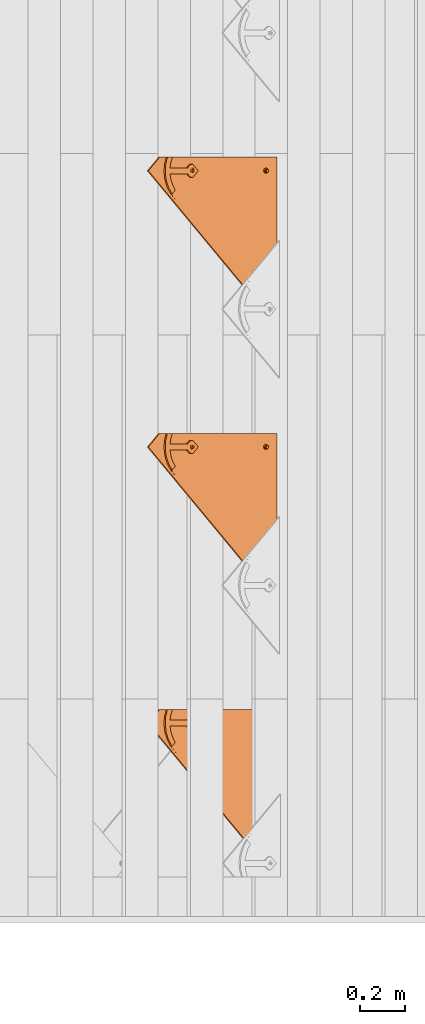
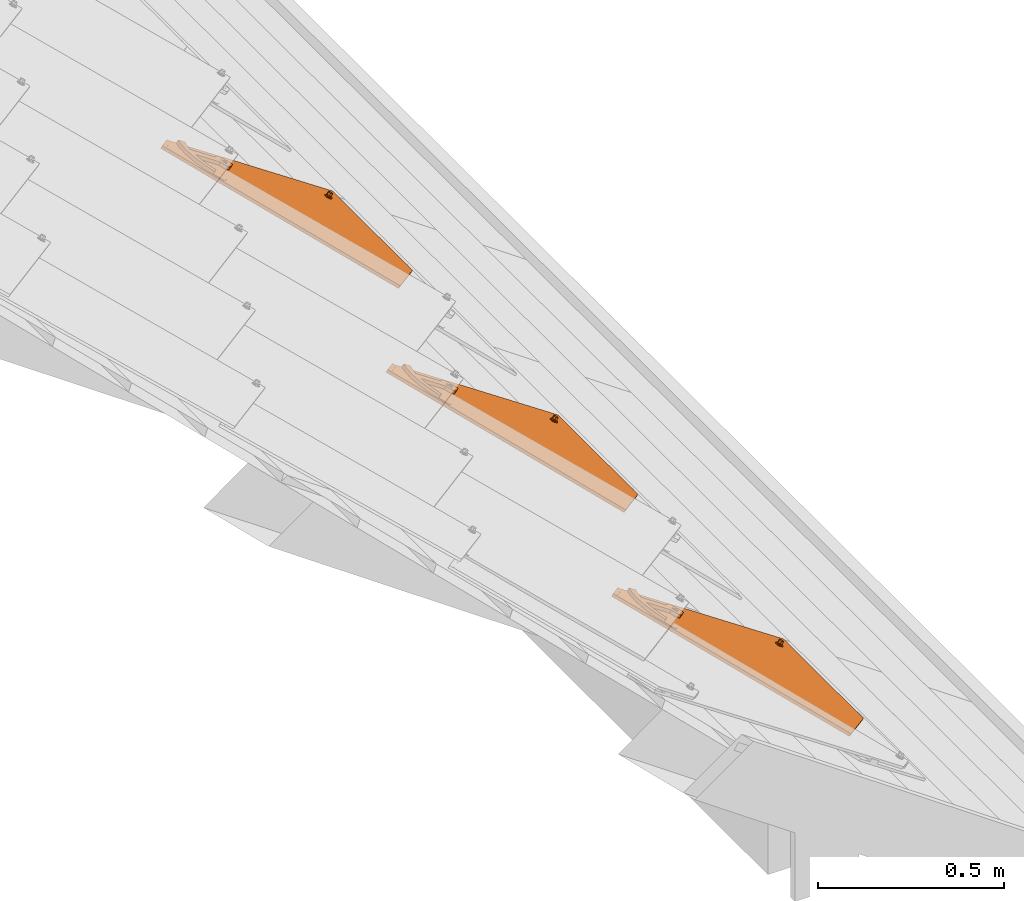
# One storey, part 113 of 133: 3 proxies.
"""IFC2X3 building model written with IfcOpenShell, lengths in millimetres."""

from ifc_helpers import new_model, entity, si_unit, converted_unit, derived_unit, direction, frame, origin, place, context, subcontext, project, spatial, faceted_brep, source, transform, mapped, material, material_list, type_object, type_shapes, element, save


model = new_model("IFC2X3")

# Units and contexts
model_context = context("Model", 3, precision=0.01, world=origin(), true_north=direction((6.12303176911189e-17, 1.0)))
body_context = subcontext(model_context, "Body", "Model", "MODEL_VIEW")
ifc_project = project(units=[si_unit("LENGTHUNIT", "METRE", prefix="MILLI"), si_unit("AREAUNIT", "SQUARE_METRE"), si_unit("VOLUMEUNIT", "CUBIC_METRE"), converted_unit("PLANEANGLEUNIT", "DEGREE", entity("IfcRatioMeasure", 0.0174532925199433), si_unit("PLANEANGLEUNIT", "RADIAN"), dimensions=[0, 0, 0, 0, 0, 0, 0]), si_unit("MASSUNIT", "GRAM", prefix="KILO"), derived_unit("MASSDENSITYUNIT", [(si_unit("MASSUNIT", "GRAM", prefix="KILO"), 1), (si_unit("LENGTHUNIT", "METRE"), -3)]), si_unit("TIMEUNIT", "SECOND"), si_unit("FREQUENCYUNIT", "HERTZ"), si_unit("THERMODYNAMICTEMPERATUREUNIT", "DEGREE_CELSIUS"), derived_unit("THERMALTRANSMITTANCEUNIT", [(si_unit("MASSUNIT", "GRAM", prefix="KILO"), 1), (si_unit("THERMODYNAMICTEMPERATUREUNIT", "KELVIN"), -1), (si_unit("TIMEUNIT", "SECOND"), -3)]), derived_unit("VOLUMETRICFLOWRATEUNIT", [(si_unit("LENGTHUNIT", "METRE"), 3), (si_unit("TIMEUNIT", "SECOND"), -1)]), si_unit("ELECTRICCURRENTUNIT", "AMPERE"), si_unit("ELECTRICVOLTAGEUNIT", "VOLT"), si_unit("POWERUNIT", "WATT"), si_unit("FORCEUNIT", "NEWTON", prefix="KILO"), si_unit("ILLUMINANCEUNIT", "LUX"), si_unit("LUMINOUSFLUXUNIT", "LUMEN"), si_unit("LUMINOUSINTENSITYUNIT", "CANDELA"), derived_unit("USERDEFINED", [(si_unit("MASSUNIT", "GRAM", prefix="KILO"), -1), (si_unit("LENGTHUNIT", "METRE"), -2), (si_unit("TIMEUNIT", "SECOND"), 3), (si_unit("LUMINOUSFLUXUNIT", "LUMEN"), 1)]), derived_unit("LINEARVELOCITYUNIT", [(si_unit("LENGTHUNIT", "METRE"), 1), (si_unit("TIMEUNIT", "SECOND"), -1)]), si_unit("PRESSUREUNIT", "PASCAL"), derived_unit("USERDEFINED", [(si_unit("LENGTHUNIT", "METRE"), -2), (si_unit("MASSUNIT", "GRAM", prefix="KILO"), 1), (si_unit("TIMEUNIT", "SECOND"), -2)])], contexts=[model_context])

# Site, building, storey
site_placement = place(None, origin())
site = spatial("IfcSite", under=ifc_project, at=site_placement, Name="Default", CompositionType="ELEMENT")
building_placement = place(site_placement, origin())
building = spatial("IfcBuilding", under=site, at=building_placement, CompositionType="ELEMENT")
storey_placement = place(building_placement, origin())
storey = spatial("IfcBuildingStorey", under=building, at=storey_placement, Name="Level 1", CompositionType="ELEMENT", Elevation=0.0)

# Proxies
ifc_material_1 = material(Name="Rubber - Sunstyle - Black")
ifc_material_2 = material(Name="Glass - Sunstyle - Tainted Black")
ifc_material_list_1 = material_list([ifc_material_1, ifc_material_2])
ifc_material_list_2 = material_list([ifc_material_1, ifc_material_2])
building_element_proxy_type = type_object("IfcBuildingElementProxyType", Name="Corner Bottom Big Right - Black", PredefinedType="NOTDEFINED", material=ifc_material_list_2)
shared_shape = source(origin(), body_context, "Body", "Brep", [
    faceted_brep([(0.270009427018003, -2.025866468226, -4.01619789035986), (-5.50419340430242, -5.35913660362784, -3.96037390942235), (-5.50419340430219, -4.99082751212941, 18.0314954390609), (0.270009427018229, -1.65755737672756, 17.9756714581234), (-5.50419340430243, -12.0256768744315, -3.84872594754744), (-5.5041934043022, -11.6573677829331, 18.1431434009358), (0.270009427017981, -15.3589470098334, -3.79290196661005), (0.270009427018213, -14.990637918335, 18.1989673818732), (6.04421225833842, -12.0256768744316, -3.84872594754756), (6.04421225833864, -11.6573677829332, 18.1431434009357), (6.04421225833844, -5.35913660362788, -3.96037390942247), (6.04421225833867, -4.99082751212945, 18.0314954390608), (-8.3336947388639, -16.9265954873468, 18.2313898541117), (0.27000942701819, -20.4898667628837, 18.2910657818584), (-11.8974656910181, -8.32409764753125, 18.0873194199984), (-8.33369473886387, 0.278400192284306, 17.9432489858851), (0.270009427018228, 3.84167146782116, 17.8835730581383), (8.87371359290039, 0.278400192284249, 17.9432489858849), (12.4374845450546, -8.32409764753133, 18.0873194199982), (8.87371359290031, -16.9265954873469, 18.2313898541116), (-11.1602134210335, -6.95050198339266, 20.4858706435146), (-9.50050407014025, -8.25322861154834, 22.3189355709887), (0.270009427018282, -0.940007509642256, 22.9603444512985), (0.27000942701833, 0.300490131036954, 22.3799978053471), (0.270009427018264, 2.4580409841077, 21.3706227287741), (-6.05323627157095, -4.59022324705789, 23.0214764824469), (-6.05323627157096, -11.8906547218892, 23.1437405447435), (0.270009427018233, -18.990246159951, 21.7298281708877), (0.270009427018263, -15.5408704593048, 23.2048725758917), (11.2551842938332, -12.0411541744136, 20.3827540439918), (10.3938597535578, -8.25726753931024, 22.077768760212), (6.59325512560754, -4.59022324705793, 23.0214764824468), (6.5932551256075, -11.8906547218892, 23.1437405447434), (-6.05323627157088, -11.7566262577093, 31.1466287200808), (0.270009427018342, -15.4068419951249, 31.207760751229), (0.270009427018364, -8.10641052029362, 31.0854966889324), (-6.05323627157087, -4.456194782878, 31.0243646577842), (6.59325512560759, -11.7566262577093, 31.1466287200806), (6.59325512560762, -4.45619478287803, 31.024364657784), (0.270009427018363, -0.805979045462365, 30.9632326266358), (0.270009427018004, -8.69240673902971, -3.90454992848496)], [[[0, 1, 2, 3]], [[1, 4, 5, 2]], [[4, 6, 7, 5]], [[6, 8, 9, 7]], [[8, 10, 11, 9]], [[10, 0, 3, 11]], [[12, 7, 13]], [[7, 12, 5]], [[14, 5, 12]], [[5, 14, 2]], [[15, 2, 14]], [[3, 2, 15]], [[15, 16, 3]], [[16, 17, 3]], [[11, 3, 17]], [[11, 17, 18]], [[9, 11, 18]], [[18, 19, 9]], [[7, 9, 19]], [[19, 13, 7]], [[15, 20, 16]], [[21, 22, 23, 24]], [[22, 21, 25]], [[20, 14, 12]], [[15, 14, 20]], [[25, 21, 26]], [[20, 24, 16]], [[12, 13, 27]], [[12, 27, 20]], [[21, 28, 26]], [[21, 27, 28]], [[20, 21, 24]], [[20, 27, 21]], [[19, 29, 13]], [[30, 23, 31]], [[30, 28, 27]], [[24, 23, 30]], [[29, 27, 13]], [[19, 18, 29]], [[29, 30, 27]], [[29, 17, 24]], [[24, 17, 16]], [[31, 32, 30]], [[23, 22, 31]], [[28, 30, 32]], [[29, 24, 30]], [[29, 18, 17]], [[33, 34, 35]], [[35, 36, 33]], [[34, 37, 35]], [[38, 35, 37]], [[35, 38, 39]], [[35, 39, 36]], [[40, 6, 4]], [[4, 1, 40]], [[1, 0, 40]], [[40, 8, 6]], [[0, 10, 40]], [[8, 40, 10]], [[22, 25, 36, 39]], [[25, 26, 33, 36]], [[26, 28, 34, 33]], [[28, 32, 37, 34]], [[32, 31, 38, 37]], [[31, 22, 39, 38]]]),
    faceted_brep([(-518.247351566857, 79.9143812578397, 14.9652572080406), (-518.247351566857, 79.9394990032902, 16.4650468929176), (-526.732038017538, 88.4241854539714, 16.3229495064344), (-526.732038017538, 88.399067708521, 14.8231598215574), (-0.00032251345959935, 614.98308737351, 6.00418773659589), (60.1037538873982, 554.895864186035, 7.01049921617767), (51.6190674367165, 546.411177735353, 7.15259660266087), (-0.000322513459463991, 598.016093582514, 6.28834266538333), (-0.000322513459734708, 615.00820511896, 7.50397742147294), (-0.000322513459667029, 598.041211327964, 7.78813235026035), (51.6190674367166, 546.436295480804, 8.65238628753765), (60.1037538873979, 554.920981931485, 8.51028890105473)], [[[0, 1, 2, 3]], [[0, 3, 4, 5, 6, 7]], [[3, 2, 8, 4]], [[2, 1, 9, 10, 11, 8]], [[1, 0, 7, 9]], [[6, 5, 11, 10]], [[4, 8, 11, 5]], [[9, 7, 6, 10]]]),
    faceted_brep([(0.0, 372.774440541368, 20.3195200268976), (0.0, 377.273809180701, 20.2441667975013), (-8.60370416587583, 376.337711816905, 20.2598440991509), (8.60370416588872, 376.337711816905, 20.2598440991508), (6.64022859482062, 381.107009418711, 20.1799702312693), (12.1674751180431, 384.940209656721, 20.1157736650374), (6.64022859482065, 388.773409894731, 20.0515770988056), (8.6037041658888, 393.542707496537, 19.9717032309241), (0.0, 392.606610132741, 19.9873805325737), (0.0, 397.105978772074, 19.9120273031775), (-8.60370416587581, 393.542707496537, 19.9717032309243), (-6.64022859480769, 388.773409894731, 20.0515770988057), (-12.1674751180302, 384.940209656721, 20.1157736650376), (-6.6402285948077, 381.107009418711, 20.1799702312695), (-6.6402282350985, 388.505487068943, 4.05382046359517), (0.0, 392.338687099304, 3.98962390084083), (-6.64022823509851, 380.839087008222, 4.18221358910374), (0.0, 377.005886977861, 4.24641015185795), (6.64022823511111, 380.839087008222, 4.1822135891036), (6.64022823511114, 388.505487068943, 4.05382046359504), (-8.603704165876, 376.069789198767, 4.26208746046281), (0.0, 372.50651792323, 4.32176338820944), (-12.1674751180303, 384.672287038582, 4.11801702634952), (-8.60370416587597, 393.274784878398, 3.97394659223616), (0.0, 396.838056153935, 3.91427066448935), (8.60370416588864, 393.274784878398, 3.97394659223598), (12.1674751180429, 384.672287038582, 4.11801702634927), (8.60370416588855, 376.069789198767, 4.26208746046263)], [[[0, 1, 2]], [[1, 0, 3]], [[3, 4, 1]], [[4, 3, 5]], [[6, 4, 5]], [[5, 7, 6]], [[7, 8, 6]], [[8, 7, 9]], [[8, 9, 10]], [[10, 11, 8]], [[12, 11, 10]], [[2, 13, 12]], [[12, 13, 11]], [[13, 2, 1]], [[8, 11, 14, 15]], [[11, 13, 16, 14]], [[13, 1, 17, 16]], [[1, 4, 18, 17]], [[4, 6, 19, 18]], [[6, 8, 15, 19]], [[20, 17, 21]], [[17, 20, 16]], [[22, 16, 20]], [[14, 16, 22]], [[23, 14, 22]], [[15, 14, 23]], [[23, 24, 15]], [[24, 25, 15]], [[19, 15, 25]], [[19, 25, 26]], [[26, 18, 19]], [[26, 27, 18]], [[17, 18, 27]], [[27, 21, 17]], [[24, 23, 10, 9]], [[10, 23, 22, 12]], [[20, 21, 0, 2]], [[20, 2, 12, 22]], [[21, 27, 3, 0]], [[3, 27, 26, 5]], [[25, 24, 9, 7]], [[25, 7, 5, 26]]]),
    faceted_brep([(-10.3923048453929, 390.78484910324, 9.75895037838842), (-8.48528137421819, 393.269782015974, 9.7173339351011), (-0.00032251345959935, 614.983087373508, 6.0041877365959), (-11.5911099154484, 387.891083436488, 9.8074137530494), (-6.0, 395.176538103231, 9.68540051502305), (-3.10582854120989, 396.37517508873, 9.6653263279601), (60.1037538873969, 554.895864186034, 7.01049921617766), (0.0, 396.784007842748, 9.65847939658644), (3.1058285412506, 396.37517508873, 9.6653263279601), (6.0, 395.176538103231, 9.68540051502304), (8.48528137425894, 393.269782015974, 9.7173339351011), (10.3923048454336, 390.784849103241, 9.75895037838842), (11.5911099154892, 387.891083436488, 9.8074137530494), (12.0, 384.785690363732, 9.8594213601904), (11.5911099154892, 381.680297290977, 9.9114289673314), (60.103753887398, -67.933460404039, 17.4413406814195), (10.3923048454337, 378.786531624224, 9.95989234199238), (6.58173564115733, -3.94243384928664, 16.369650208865), (8.48528137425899, 376.301598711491, 10.0015087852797), (5.31038666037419, -2.28581190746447, 16.3419059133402), (6.0, 374.394842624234, 10.0334422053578), (3.65353241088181, -1.01464118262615, 16.3206169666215), (3.10582854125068, 373.196205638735, 10.0535163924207), (1.72408477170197, -0.215549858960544, 16.3072341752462), (0.0, 372.787372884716, 10.0603633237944), (-0.346467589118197, 0.0570053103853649, 16.3026695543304), (-2.41701994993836, -0.215549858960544, 16.3072341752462), (-3.10582854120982, 373.196205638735, 10.0535163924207), (-4.34646758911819, -1.01464118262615, 16.3206169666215), (-6.0, 374.394842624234, 10.0334422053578), (-6.00332183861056, -2.28581190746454, 16.3419059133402), (-8.48528137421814, 376.301598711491, 10.0015087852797), (-370.355661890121, -67.9334604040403, 17.4413406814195), (-10.3923048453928, 378.786531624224, 9.95989234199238), (-526.732038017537, 88.3990677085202, 14.8231598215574), (-11.5911099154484, 381.680297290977, 9.9114289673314), (-12.0, 384.785690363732, 9.8594213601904), (-7.27467081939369, -3.94243384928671, 16.369650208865), (-8.07387419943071, -5.87161096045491, 16.4019591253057), (-8.34646758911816, -7.94187300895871, 16.4366308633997), (-8.0738741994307, -10.0121350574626, 16.4713026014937), (-7.27467081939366, -11.9413121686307, 16.5036115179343), (-6.00332183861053, -13.5979341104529, 16.5313558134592), (-4.34646758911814, -14.8691048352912, 16.5526447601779), (-2.41701994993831, -15.6681961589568, 16.5660275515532), (7.38093902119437, -5.87161096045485, 16.4019591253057), (7.65353241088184, -7.94187300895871, 16.4366308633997), (7.38093902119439, -10.0121350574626, 16.4713026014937), (6.58173564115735, -11.9413121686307, 16.5036115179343), (5.31038666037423, -13.5979341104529, 16.5313558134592), (3.65353241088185, -14.8691048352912, 16.5526447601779), (1.72408477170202, -15.6681961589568, 16.5660275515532), (-0.346467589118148, -15.9407513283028, 16.570592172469), (-370.355661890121, -68.0590491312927, 9.94239225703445), (-8.0738741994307, -10.1377237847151, 8.97235417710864), (-7.27467081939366, -12.0669008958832, 9.00466309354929), (-8.34646758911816, -8.06746173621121, 8.93768243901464), (-6.00332183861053, -13.7235228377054, 9.03240738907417), (-4.34646758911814, -14.9946935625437, 9.05369633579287), (60.103753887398, -68.0590491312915, 9.94239225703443), (-8.07387419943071, -5.99719968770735, 8.90301070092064), (-7.27467081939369, -4.06802257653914, 8.87070178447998), (-6.00332183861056, -2.41140063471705, 8.8429574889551), (-8.48528137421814, 376.176009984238, 2.50256036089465), (-10.3923048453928, 378.660942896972, 2.46094391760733), (-526.732038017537, 88.2734789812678, 7.32421139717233), (-11.5911099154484, 381.554708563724, 2.41248054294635), (-12.0, 384.66010163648, 2.36047293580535), (-11.5911099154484, 387.765494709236, 2.30846532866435), (-0.00032251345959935, 614.857498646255, -1.49476068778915), (-10.3923048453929, 390.659260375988, 2.26000195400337), (-8.48528137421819, 393.144193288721, 2.21838551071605), (-6.0, 395.050949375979, 2.18645209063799), (-3.10582854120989, 396.249586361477, 2.16637790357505), (60.1037538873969, 554.770275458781, -0.488449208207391), (0.0, 396.658419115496, 2.15953097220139), (3.1058285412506, 396.249586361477, 2.16637790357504), (6.0, 395.050949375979, 2.18645209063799), (8.48528137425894, 393.144193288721, 2.21838551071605), (10.3923048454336, 390.659260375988, 2.26000195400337), (11.5911099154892, 387.765494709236, 2.30846532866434), (12.0, 384.66010163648, 2.36047293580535), (11.5911099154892, 381.554708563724, 2.41248054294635), (-2.41701994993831, -15.7937848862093, 9.06707912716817), (-0.346467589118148, -16.0663400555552, 9.07164374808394), (1.72408477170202, -15.7937848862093, 9.06707912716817), (3.65353241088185, -14.9946935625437, 9.05369633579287), (5.31038666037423, -13.7235228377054, 9.03240738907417), (6.58173564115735, -12.0669008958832, 9.00466309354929), (7.38093902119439, -10.1377237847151, 8.97235417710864), (7.65353241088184, -8.06746173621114, 8.93768243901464), (7.38093902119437, -5.99719968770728, 8.90301070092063), (6.58173564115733, -4.06802257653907, 8.87070178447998), (10.3923048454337, 378.660942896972, 2.46094391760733), (-6.0, 374.269253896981, 2.5344937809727), (-4.34646758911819, -1.14022990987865, 8.8216685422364), (-3.10582854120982, 373.070616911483, 2.55456796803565), (-2.41701994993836, -0.341138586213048, 8.8082857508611), (0.0, 372.661784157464, 2.56141489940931), (-0.346467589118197, -0.0685834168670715, 8.80372112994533), (1.72408477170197, -0.341138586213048, 8.8082857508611), (3.10582854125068, 373.070616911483, 2.55456796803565), (3.65353241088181, -1.14022990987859, 8.8216685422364), (6.0, 374.269253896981, 2.5344937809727), (5.31038666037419, -2.41140063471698, 8.8429574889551), (8.48528137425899, 376.176009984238, 2.50256036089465)], [[[0, 1, 2]], [[3, 0, 2]], [[4, 2, 1]], [[2, 4, 5]], [[6, 2, 5]], [[7, 6, 5]], [[7, 8, 6]], [[8, 9, 6]], [[10, 6, 9]], [[6, 10, 11]], [[6, 11, 12]], [[12, 13, 6]], [[13, 14, 6]], [[6, 14, 15]], [[14, 16, 15]], [[17, 15, 16]], [[18, 17, 16]], [[17, 18, 19]], [[18, 20, 19]], [[21, 19, 20]], [[20, 22, 21]], [[23, 21, 22]], [[24, 23, 22]], [[23, 24, 25]], [[26, 25, 24]], [[24, 27, 26]], [[26, 27, 28]], [[29, 28, 27]], [[28, 29, 30]], [[29, 31, 30]], [[32, 30, 31]], [[33, 32, 31]], [[33, 34, 32]], [[33, 35, 34]], [[35, 36, 34]], [[36, 3, 34]], [[3, 2, 34]], [[30, 32, 37]], [[37, 32, 38]], [[32, 39, 38]], [[39, 32, 40]], [[40, 32, 41]], [[42, 41, 32]], [[42, 32, 43]], [[43, 32, 15]], [[15, 44, 43]], [[17, 45, 15]], [[45, 46, 15]], [[47, 15, 46]], [[47, 48, 15]], [[49, 15, 48]], [[15, 49, 50]], [[50, 51, 15]], [[51, 52, 15]], [[52, 44, 15]], [[53, 54, 55]], [[54, 53, 56]], [[53, 55, 57]], [[57, 58, 53]], [[53, 58, 59]], [[60, 56, 53]], [[61, 60, 53]], [[61, 53, 62]], [[63, 62, 53]], [[64, 63, 53]], [[65, 64, 53]], [[65, 66, 64]], [[66, 65, 67]], [[67, 65, 68]], [[65, 69, 68]], [[70, 68, 69]], [[71, 70, 69]], [[72, 71, 69]], [[69, 73, 72]], [[74, 73, 69]], [[75, 73, 74]], [[76, 75, 74]], [[77, 76, 74]], [[74, 78, 77]], [[78, 74, 79]], [[80, 79, 74]], [[80, 74, 81]], [[82, 81, 74]], [[82, 74, 59]], [[59, 58, 83]], [[84, 59, 83]], [[84, 85, 59]], [[85, 86, 59]], [[87, 59, 86]], [[59, 87, 88]], [[59, 88, 89]], [[89, 90, 59]], [[90, 91, 59]], [[91, 92, 59]], [[92, 93, 59]], [[93, 82, 59]], [[94, 62, 63]], [[94, 95, 62]], [[96, 95, 94]], [[97, 95, 96]], [[96, 98, 97]], [[99, 97, 98]], [[99, 98, 100]], [[101, 100, 98]], [[102, 100, 101]], [[103, 102, 101]], [[104, 102, 103]], [[103, 105, 104]], [[105, 92, 104]], [[105, 93, 92]], [[36, 67, 68, 3]], [[3, 68, 70, 0]], [[4, 1, 71, 72]], [[70, 71, 1, 0]], [[5, 4, 72, 73]], [[75, 7, 5, 73]], [[8, 76, 77, 9]], [[9, 77, 78, 10]], [[12, 11, 79, 80]], [[78, 79, 11, 10]], [[13, 12, 80, 81]], [[8, 7, 75, 76]], [[13, 81, 82, 14]], [[14, 82, 93, 16]], [[20, 18, 105, 103]], [[93, 105, 18, 16]], [[22, 20, 103, 101]], [[98, 24, 22, 101]], [[27, 96, 94, 29]], [[29, 94, 63, 31]], [[35, 33, 64, 66]], [[63, 64, 33, 31]], [[36, 35, 66, 67]], [[27, 24, 98, 96]], [[34, 2, 69, 65]], [[32, 34, 65, 53]], [[15, 32, 53, 59]], [[6, 15, 59, 74]], [[2, 6, 74, 69]], [[39, 56, 60, 38]], [[38, 60, 61, 37]], [[28, 30, 62, 95]], [[62, 30, 37, 61]], [[26, 28, 95, 97]], [[26, 97, 99, 25]], [[25, 99, 100, 23]], [[23, 100, 102, 21]], [[17, 19, 104, 92]], [[104, 19, 21, 102]], [[45, 17, 92, 91]], [[45, 91, 90, 46]], [[46, 90, 89, 47]], [[47, 89, 88, 48]], [[50, 49, 87, 86]], [[87, 49, 48, 88]], [[51, 50, 86, 85]], [[51, 85, 84, 52]], [[52, 84, 83, 44]], [[44, 83, 58, 43]], [[41, 42, 57, 55]], [[57, 42, 43, 58]], [[40, 41, 55, 54]], [[40, 54, 56, 39]]]),
    faceted_brep([(-114.2509690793, 483.839345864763, 10.7008696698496), (-128.946713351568, 469.147722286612, 10.9469178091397), (-111.269043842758, 451.472531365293, 11.2429332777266), (-84.944396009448, 477.793488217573, 10.8021227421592), (-102.027571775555, 494.874268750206, 10.5160621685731), (-108.279973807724, 489.512620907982, 10.6058564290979), (0.0, 355.735286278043, 10.3459433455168), (0.0, 373.122276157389, 10.0547545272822), (3.10582854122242, 373.531108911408, 10.0479075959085), (-3.10582854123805, 373.531108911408, 10.0479075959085), (6.0, 374.729745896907, 10.0278334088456), (8.48528137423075, 376.636501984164, 9.99589998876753), (29.3894280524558, 385.120593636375, 9.85381256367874), (-6.0, 374.729745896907, 10.0278334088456), (-8.4852813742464, 376.636501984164, 9.99589998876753), (-29.3894280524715, 385.120593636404, 9.85381256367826), (-10.3923048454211, 379.121434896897, 9.95428354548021), (-11.5911099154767, 382.01520056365, 9.90582017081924), (-12.0, 385.120593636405, 9.85381256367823), (-28.6795527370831, 391.540108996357, 9.74630165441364), (-11.5911099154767, 388.225986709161, 9.80180495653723), (-26.5842195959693, 397.649509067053, 9.64398440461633), (-10.3923048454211, 391.119752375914, 9.75334158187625), (-23.204650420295, 403.153659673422, 9.55180357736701), (-8.48528137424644, 393.604685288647, 9.71172513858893), (-18.704106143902, 407.786665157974, 9.47421226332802), (-6.0, 395.511441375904, 9.67979171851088), (-13.3000000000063, 411.324713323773, 9.41495875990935), (-3.10582854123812, 396.710078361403, 9.65971753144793), (0.0, 397.118911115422, 9.65287060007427), (13.2999999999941, 411.324713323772, 9.41495875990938), (-13.3000000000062, 505.643535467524, 7.83535317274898), (13.2999999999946, 505.643535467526, 7.83535317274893), (-7.21723712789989, 530.953901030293, 7.41146752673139), (-41.1626974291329, 525.784666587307, 7.49803934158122), (-38.7697427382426, 500.828655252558, 7.91599043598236), (-73.2491712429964, 513.560140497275, 7.70276973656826), (-62.9243331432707, 491.42502143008, 8.07347790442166), (-84.9431983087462, 477.752822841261, 8.30245321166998), (-102.027571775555, 494.832405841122, 8.01641269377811), (-108.279973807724, 489.470757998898, 8.10620695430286), (-114.2509690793, 483.79748295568, 8.20122019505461), (-111.269043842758, 451.430668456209, 8.74328380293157), (-128.946713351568, 469.105859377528, 8.44726833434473), (27.0541674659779, 528.834391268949, 7.44696404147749), (37.2599857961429, 501.252149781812, 7.90889795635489), (60.1037538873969, 519.521858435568, 7.60292579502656), (60.1037538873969, 492.795625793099, 8.05052369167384), (3.10582854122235, 396.710078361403, 9.65971753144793), (6.0, 395.511441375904, 9.67979171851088), (18.7041061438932, 407.786665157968, 9.47421226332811), (8.48528137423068, 393.604685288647, 9.71172513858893), (23.2046504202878, 403.153659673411, 9.55180357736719), (10.3923048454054, 391.119752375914, 9.75334158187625), (26.5842195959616, 397.649509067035, 9.64398440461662), (11.591109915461, 388.225986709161, 9.80180495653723), (28.6795527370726, 391.540108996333, 9.74630165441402), (12.0, 385.120593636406, 9.85381256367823), (11.591109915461, 382.01520056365, 9.90582017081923), (10.3923048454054, 379.121434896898, 9.95428354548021), (-38.7697427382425, 500.996106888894, 17.9145883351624), (-41.1626974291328, 525.952118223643, 17.4966372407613), (-73.2491712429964, 513.727592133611, 17.7013676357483), (-62.9243331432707, 491.592473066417, 18.0720758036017), (-13.3000000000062, 505.810987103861, 17.833951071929), (-7.21723712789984, 531.121352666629, 17.4100654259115), (13.2999999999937, 505.810987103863, 17.833951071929), (-13.3000000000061, 411.49216496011, 19.4135566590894), (13.2999999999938, 411.492164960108, 19.4135566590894), (0.0, 397.286362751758, 19.6514684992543), (-3.10582854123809, 396.877529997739, 19.658315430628), (-6.0, 395.678893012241, 19.6783896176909), (-18.7041061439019, 407.954116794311, 19.4728101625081), (-8.48528137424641, 393.772136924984, 19.710323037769), (-23.2046504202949, 403.321111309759, 19.5504014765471), (-10.3923048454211, 391.28720401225, 19.7519394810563), (-26.5842195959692, 397.816960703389, 19.6425823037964), (-11.5911099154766, 388.393438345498, 19.8004028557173), (-28.6795527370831, 391.707560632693, 19.7448995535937), (-12.0, 385.288045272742, 19.8524104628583), (-29.3894280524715, 385.28804527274, 19.8524104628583), (-11.5911099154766, 382.182652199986, 19.9044180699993), (-10.3923048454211, 379.288886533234, 19.9528814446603), (-8.48528137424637, 376.803953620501, 19.9944978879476), (0.0, 355.902737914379, 20.3445412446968), (-6.0, 374.897197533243, 20.0264313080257), (-3.10582854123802, 373.698560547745, 20.0465054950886), (0.0, 373.289727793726, 20.0533524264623), (3.10582854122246, 373.698560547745, 20.0465054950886), (6.0, 374.897197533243, 20.0264313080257), (8.48528137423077, 376.803953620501, 19.9944978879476), (29.3894280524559, 385.288045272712, 19.8524104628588), (10.3923048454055, 379.288886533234, 19.9528814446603), (11.591109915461, 382.182652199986, 19.9044180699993), (12.0, 385.288045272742, 19.8524104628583), (28.6795527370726, 391.70756063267, 19.7448995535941), (11.591109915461, 388.393438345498, 19.8004028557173), (26.5842195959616, 397.816960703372, 19.6425823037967), (10.3923048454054, 391.28720401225, 19.7519394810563), (23.2046504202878, 403.321111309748, 19.5504014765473), (8.48528137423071, 393.772136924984, 19.710323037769), (18.7041061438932, 407.954116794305, 19.4728101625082), (6.0, 395.678893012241, 19.6783896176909), (3.10582854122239, 396.877529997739, 19.658315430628), (27.0541674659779, 529.001842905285, 17.4455619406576), (37.259985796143, 501.419601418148, 17.907495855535), (60.1037538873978, 519.689310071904, 17.6015236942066), (60.1037538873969, 492.963077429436, 18.0491215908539), (-84.9443960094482, 477.919076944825, 18.3010711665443), (-102.027571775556, 494.999857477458, 18.0150105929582)], [[[0, 1, 2, 3, 4, 5]], [[6, 7, 8]], [[7, 6, 9]], [[6, 8, 10]], [[10, 11, 6]], [[6, 11, 12]], [[13, 9, 6]], [[14, 13, 6]], [[14, 6, 15]], [[15, 16, 14]], [[16, 15, 17]], [[17, 15, 18]], [[19, 18, 15]], [[20, 18, 19]], [[19, 21, 20]], [[20, 21, 22]], [[23, 22, 21]], [[23, 24, 22]], [[23, 25, 24]], [[25, 26, 24]], [[26, 25, 27]], [[28, 26, 27]], [[27, 29, 28]], [[30, 29, 27]], [[30, 27, 31]], [[30, 31, 32]], [[31, 33, 32]], [[33, 31, 34]], [[35, 34, 31]], [[34, 35, 36]], [[37, 36, 35]], [[37, 38, 36]], [[36, 38, 39]], [[40, 39, 38]], [[40, 38, 41]], [[38, 42, 41]], [[42, 43, 41]], [[32, 33, 44]], [[44, 45, 32]], [[45, 44, 46]], [[46, 47, 45]], [[48, 29, 30]], [[30, 49, 48]], [[49, 30, 50]], [[50, 51, 49]], [[50, 52, 51]], [[51, 52, 53]], [[54, 53, 52]], [[54, 55, 53]], [[56, 55, 54]], [[57, 55, 56]], [[12, 57, 56]], [[58, 57, 12]], [[12, 11, 59]], [[58, 12, 59]], [[1, 0, 41, 43]], [[2, 1, 43, 42]], [[4, 39, 40, 5]], [[40, 41, 0, 5]], [[3, 2, 42, 38]], [[60, 61, 62]], [[63, 60, 62]], [[64, 61, 60]], [[61, 64, 65]], [[66, 65, 64]], [[66, 64, 67]], [[66, 67, 68]], [[68, 67, 69]], [[67, 70, 69]], [[71, 70, 67]], [[71, 67, 72]], [[72, 73, 71]], [[73, 72, 74]], [[73, 74, 75]], [[74, 76, 75]], [[75, 76, 77]], [[78, 77, 76]], [[78, 79, 77]], [[78, 80, 79]], [[79, 80, 81]], [[82, 81, 80]], [[83, 82, 80]], [[83, 80, 84]], [[85, 83, 84]], [[86, 85, 84]], [[87, 86, 84]], [[87, 84, 88]], [[89, 88, 84]], [[89, 84, 90]], [[91, 90, 84]], [[92, 90, 91]], [[91, 93, 92]], [[93, 91, 94]], [[95, 94, 91]], [[95, 96, 94]], [[95, 97, 96]], [[96, 97, 98]], [[99, 98, 97]], [[98, 99, 100]], [[100, 99, 101]], [[101, 68, 102]], [[100, 101, 102]], [[102, 68, 103]], [[103, 68, 69]], [[66, 104, 65]], [[105, 104, 66]], [[105, 106, 104]], [[106, 105, 107]], [[108, 63, 62]], [[62, 109, 108]], [[66, 68, 30, 32]], [[95, 91, 12, 56]], [[97, 95, 56, 54]], [[54, 52, 99, 97]], [[101, 99, 52, 50]], [[68, 101, 50, 30]], [[91, 84, 6, 12]], [[84, 80, 15, 6]], [[72, 67, 27, 25]], [[74, 72, 25, 23]], [[23, 21, 76, 74]], [[78, 76, 21, 19]], [[80, 78, 19, 15]], [[67, 64, 31, 27]], [[104, 106, 46, 44]], [[65, 104, 44, 33]], [[33, 34, 61, 65]], [[62, 61, 34, 36]], [[4, 109, 62, 36, 39]], [[79, 18, 20, 77]], [[77, 20, 22, 75]], [[71, 73, 24, 26]], [[22, 24, 73, 75]], [[70, 71, 26, 28]], [[29, 69, 70, 28]], [[103, 48, 49, 102]], [[102, 49, 51, 100]], [[96, 98, 53, 55]], [[51, 53, 98, 100]], [[94, 96, 55, 57]], [[103, 69, 29, 48]], [[94, 57, 58, 93]], [[93, 58, 59, 92]], [[89, 90, 11, 10]], [[59, 11, 90, 92]], [[88, 89, 10, 8]], [[7, 87, 88, 8]], [[86, 9, 13, 85]], [[85, 13, 14, 83]], [[81, 82, 16, 17]], [[14, 16, 82, 83]], [[79, 81, 17, 18]], [[86, 87, 7, 9]], [[108, 109, 4, 3]], [[32, 45, 105, 66]], [[47, 107, 105, 45]], [[3, 37, 63, 108]], [[3, 38, 37]], [[35, 31, 64, 60]], [[37, 35, 60, 63]], [[106, 107, 47, 46]]]),
])
type_shapes(building_element_proxy_type, [shared_shape])
proxy_1_placement = place(storey_placement, frame((4392.22439057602, -3421.36334337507, 600.046424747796), z_axis=(0.573576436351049, 0.0, 0.81915204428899), x_axis=(0.0, 1.0, 0.0)))
element("IfcBuildingElementProxy", 1, at=proxy_1_placement, inside=storey, type_object=building_element_proxy_type, material=ifc_material_list_1, Name="Roofing_Panels_SunStyle_Tile_Corner-Bottom-Big-Right:Corner Bottom Big Right - Black", ObjectType="Roofing_Panels_SunStyle_Tile_Corner-Bottom-Big-Right:Corner Bottom Big Right - Black", context=body_context, shape_type="MappedRepresentation", body=[
    mapped(shared_shape, transform((0.0, 0.0, 0.0), scale=1.0)),
])
ifc_material_list_3 = material_list([ifc_material_1, ifc_material_2])
proxy_2_placement = place(storey_placement, frame((4392.22439057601, -4636.36334337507, 600.04642474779), z_axis=(0.573576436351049, 0.0, 0.81915204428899), x_axis=(0.0, 1.0, 0.0)))
element("IfcBuildingElementProxy", 2, at=proxy_2_placement, inside=storey, type_object=building_element_proxy_type, material=ifc_material_list_3, Name="Roofing_Panels_SunStyle_Tile_Corner-Bottom-Big-Right:Corner Bottom Big Right - Black", ObjectType="Roofing_Panels_SunStyle_Tile_Corner-Bottom-Big-Right:Corner Bottom Big Right - Black", context=body_context, shape_type="MappedRepresentation", body=[
    mapped(shared_shape, transform((0.0, 0.0, 0.0), scale=1.0)),
])
ifc_material_list_4 = material_list([ifc_material_1, ifc_material_2])
proxy_3_placement = place(storey_placement, frame((4392.22439057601, -5851.36334337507, 600.046424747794), z_axis=(0.573576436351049, 0.0, 0.81915204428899), x_axis=(0.0, 1.0, 0.0)))
element("IfcBuildingElementProxy", 3, at=proxy_3_placement, inside=storey, type_object=building_element_proxy_type, material=ifc_material_list_4, Name="Roofing_Panels_SunStyle_Tile_Corner-Bottom-Big-Right:Corner Bottom Big Right - Black", ObjectType="Roofing_Panels_SunStyle_Tile_Corner-Bottom-Big-Right:Corner Bottom Big Right - Black", context=body_context, shape_type="MappedRepresentation", body=[
    mapped(shared_shape, transform((0.0, 0.0, 0.0), scale=1.0)),
])

save(model, "model.ifc")
